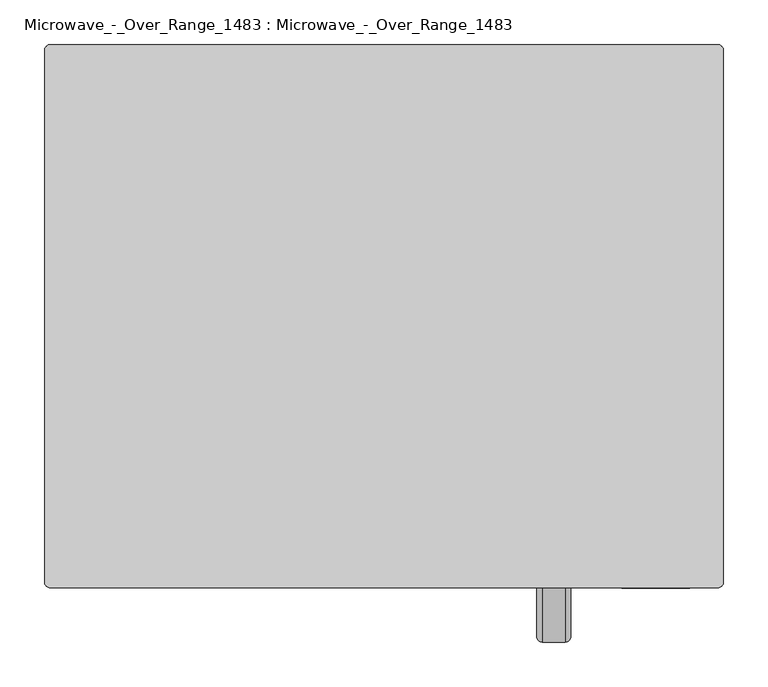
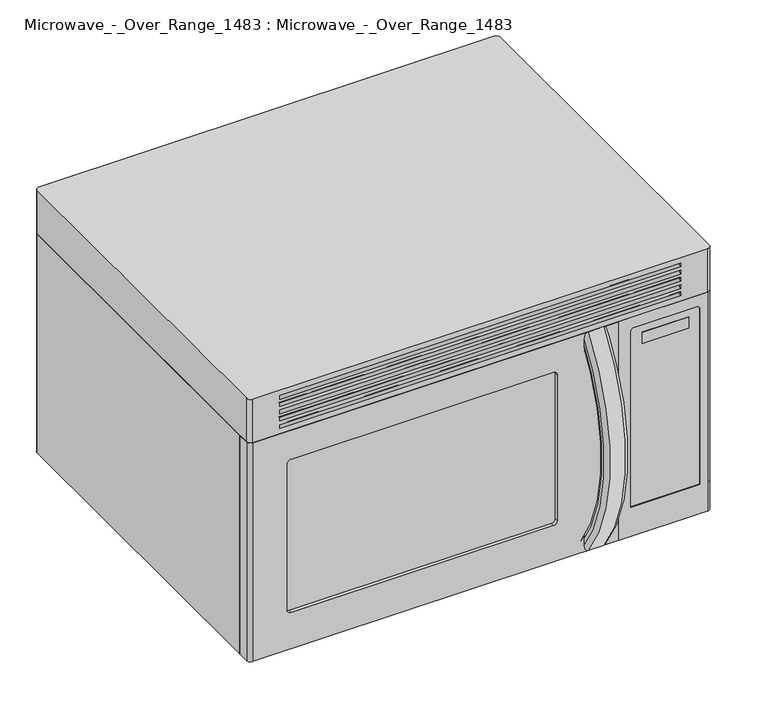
"""IFC4 building model written with IfcOpenShell, lengths in millimetres: proxy geometry, Microwave_-_Over_Range_1483 : Microwave_-_Over_Range_1483."""

from ifc_helpers import new_model, si_unit, point, frame, origin, place, context, project, spatial, polyline, circle_curve, ellipse_curve, trimmed, outline, extrude, source, transform, mapped, element, save
from ifc_brep_helpers import plane_surface, cylinder_surface, revolved_surface, advanced_brep


def microwave_over_range_1483_microwave_over_range_1483_791a16b8(model_context):
    return source(origin(), model_context, "Body", "SolidModel", [
        extrude(outline(polyline([(52.3788287, -76.2226698), (268.2788287, -76.2226698), (268.2788287, -368.3226698), (52.3788287, -368.3226698), (52.3788287, -76.2226698)])), frame((0.0, 0.0, -1.5875), z_axis=(0.0, 0.0, 1.0), x_axis=(1.0, 0.0, 0.0)), (0.0, 0.0, 1.0), 1.5875),
        extrude(outline(polyline([(46.0288287, -69.8726698), (274.6288287, -69.8726698), (274.6288287, -374.6726698), (46.0288287, -374.6726698), (46.0288287, -69.8726698)]), holes=[polyline([(52.3788287, -76.2226698), (52.3788287, -368.3226698), (268.2788287, -368.3226698), (268.2788287, -76.2226698), (52.3788287, -76.2226698)])]), frame((0.0, 0.0, -3.175), z_axis=(0.0, 0.0, 1.0), x_axis=(1.0, 0.0, 0.0)), (0.0, 0.0, 1.0), 3.175),
        extrude(outline(polyline([(-112.7211713, -76.2226698), (-112.7211713, -368.3226698), (-328.6211713, -368.3226698), (-328.6211713, -76.2226698), (-112.7211713, -76.2226698)])), frame((0.0, 0.0, -1.5875), z_axis=(0.0, 0.0, 1.0), x_axis=(1.0, 0.0, 0.0)), (0.0, 0.0, 1.0), 1.5875),
        extrude(outline(polyline([(-106.3711713, -69.8726698), (-106.3711713, -374.6726698), (-334.9711713, -374.6726698), (-334.9711713, -69.8726698), (-106.3711713, -69.8726698)]), holes=[polyline([(-112.7211713, -76.2226698), (-328.6211713, -76.2226698), (-328.6211713, -368.3226698), (-112.7211713, -368.3226698), (-112.7211713, -76.2226698)])]), frame((0.0, 0.0, -3.175), z_axis=(0.0, 0.0, 1.0), x_axis=(1.0, 0.0, 0.0)), (0.0, 0.0, 1.0), 3.175),
        advanced_brep(
        [(173.0288287, -511.7095285, 369.7360581), (147.6288287, -511.7095285, 369.7360581), (141.2788287, -516.8305756, 373.4907054), (141.2788287, -521.9516227, 377.2453527), (147.6288287, -527.0726698, 381.0), (173.0288287, -527.0726698, 381.0), (179.3788287, -521.9516227, 377.2453527), (179.3788287, -516.8305756, 373.4907054), (173.0288287, -511.7095285, 11.2639419), (179.3788287, -516.8305756, 7.5092946), (179.3788287, -521.9516227, 3.7546473), (173.0288287, -527.0726698, 0.0), (147.6288287, -527.0726698, 0.0), (141.2788287, -521.9516227, 3.7546473), (141.2788287, -516.8305756, 7.5092946), (147.6288287, -511.7095285, 11.2639419)],
        [
            (0, 1),
            (1, 2, circle_curve(frame((147.6288287, -516.8305756, 373.4907054), z_axis=(0.0, 0.5912830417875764, 0.806464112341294), x_axis=(-1.0, 0.0, 0.0)), 6.35)),
            (2, 3),
            (3, 4, circle_curve(frame((147.6288287, -521.9516227, 377.2453527), z_axis=(0.0, 0.5912830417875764, 0.806464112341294), x_axis=(-1.0, 0.0, 0.0)), 6.35)),
            (4, 5),
            (5, 6, circle_curve(frame((173.0288287, -521.9516227, 377.2453527), z_axis=(0.0, 0.5912830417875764, 0.806464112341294), x_axis=(-1.0, 0.0, 0.0)), 6.35)),
            (6, 7),
            (7, 0, circle_curve(frame((173.0288287, -516.8305756, 373.4907054), z_axis=(0.0, 0.5912830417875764, 0.806464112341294), x_axis=(-1.0, 0.0, 0.0)), 6.35)),
            (8, 9, circle_curve(frame((173.0288287, -516.8305756, 7.5092946), z_axis=(0.0, 0.5912830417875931, -0.8064641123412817), x_axis=(-1.0, 0.0, 0.0)), 6.35)),
            (9, 10),
            (10, 11, circle_curve(frame((173.0288287, -521.9516227, 3.7546473), z_axis=(0.0, 0.5912830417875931, -0.8064641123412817), x_axis=(-1.0, 0.0, 0.0)), 6.35)),
            (11, 12),
            (12, 13, circle_curve(frame((147.6288287, -521.9516227, 3.7546473), z_axis=(0.0, 0.5912830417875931, -0.8064641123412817), x_axis=(-1.0, 0.0, 0.0)), 6.35)),
            (13, 14),
            (14, 15, circle_curve(frame((147.6288287, -516.8305756, 7.5092946), z_axis=(0.0, 0.5912830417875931, -0.8064641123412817), x_axis=(-1.0, 0.0, 0.0)), 6.35)),
            (15, 8),
            (15, 1, circle_curve(frame((147.6288287, -267.2454762, 190.5), z_axis=(-1.0, 0.0, 0.0), x_axis=(0.0, -0.8064641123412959, 0.5912830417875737)), 303.1307266)),
            (0, 8, circle_curve(frame((173.0288287, -267.2454762, 190.5), z_axis=(1.0, 0.0, 0.0), x_axis=(0.0, -0.8064641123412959, 0.5912830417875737)), 303.1307266)),
            (14, 2, circle_curve(frame((141.2788287, -267.2454762, 190.5), z_axis=(-1.0, 0.0, 0.0), x_axis=(0.0, -0.8064641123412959, 0.5912830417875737)), 309.4807266)),
            (13, 3, circle_curve(frame((141.2788287, -267.2454762, 190.5), z_axis=(-1.0, 0.0, 0.0), x_axis=(0.0, -0.8064641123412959, 0.5912830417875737)), 315.8307266)),
            (12, 4, circle_curve(frame((147.6288287, -267.2454762, 190.5), z_axis=(-1.0, 0.0, 0.0), x_axis=(0.0, -0.8064641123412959, 0.5912830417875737)), 322.1807266)),
            (11, 5, circle_curve(frame((173.0288287, -267.2454762, 190.5), z_axis=(-1.0, 0.0, 0.0), x_axis=(0.0, -0.8064641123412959, 0.5912830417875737)), 322.1807266)),
            (10, 6, circle_curve(frame((179.3788287, -267.2454762, 190.5), z_axis=(-1.0, 0.0, 0.0), x_axis=(0.0, -0.8064641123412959, 0.5912830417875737)), 315.8307266)),
            (9, 7, circle_curve(frame((179.3788287, -267.2454762, 190.5), z_axis=(-1.0, 0.0, 0.0), x_axis=(0.0, -0.8064641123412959, 0.5912830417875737)), 309.4807266)),
        ],
        [
            plane_surface(frame((160.3288287, -527.0726698, 381.0), z_axis=(0.0, 0.5912830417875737, 0.8064641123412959), x_axis=(-1.0, 0.0, 0.0))),
            plane_surface(frame((160.3288287, -527.0726698, 0.0), z_axis=(0.0, 0.5912830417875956, -0.8064641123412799), x_axis=(-1.0, 0.0, 0.0))),
            revolved_surface(polyline([(173.0288287, -511.709528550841, 369.73605808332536), (147.6288287, -511.709528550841, 369.73605808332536)]), (160.3288287, -267.2454762, 190.5), (1.0, 0.0, 0.0)),
            revolved_surface(trimmed(ellipse_curve(frame((147.6288287, -516.8305756, 373.4907054), z_axis=(0.0, 0.5912830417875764, 0.806464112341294), x_axis=(-1.0, 0.0, 0.0)), 6.35, 6.35), [point((147.6288287, -511.7095285, 369.7360581))], [point((141.2788287, -516.8305756, 373.4907054))], True, "CARTESIAN"), (160.3288287, -267.2454762, 190.5), (1.0, 0.0, 0.0)),
            plane_surface(frame((141.2788287, -267.2454762, 190.5), z_axis=(-1.0, 0.0, 0.0), x_axis=(0.0, -0.8064641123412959, 0.5912830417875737))),
            revolved_surface(trimmed(ellipse_curve(frame((147.6288287, -521.9516227, 377.2453527), z_axis=(0.0, 0.5912830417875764, 0.806464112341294), x_axis=(-1.0, 0.0, 0.0)), 6.35, 6.35), [point((141.2788287, -521.9516227, 377.2453527))], [point((147.6288287, -527.0726698, 381.0))], True, "CARTESIAN"), (160.3288287, -267.2454762, 190.5), (1.0, 0.0, 0.0)),
            cylinder_surface(frame((160.3288287, -267.2454762, 190.5), z_axis=(1.0, 0.0, 0.0), x_axis=(0.0, -0.8064641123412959, 0.5912830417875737)), 322.1807266),
            revolved_surface(trimmed(ellipse_curve(frame((173.0288287, -521.9516227, 377.2453527), z_axis=(0.0, 0.5912830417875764, 0.806464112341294), x_axis=(-1.0, 0.0, 0.0)), 6.35, 6.35), [point((173.0288287, -527.0726698, 381.0))], [point((179.3788287, -521.9516227, 377.2453527))], True, "CARTESIAN"), (160.3288287, -267.2454762, 190.5), (1.0, 0.0, 0.0)),
            plane_surface(frame((179.3788287, -267.2454762, 190.5), z_axis=(1.0, 0.0, 0.0), x_axis=(0.0, -0.8064641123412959, 0.5912830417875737))),
            revolved_surface(trimmed(ellipse_curve(frame((173.0288287, -516.8305756, 373.4907054), z_axis=(0.0, 0.5912830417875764, 0.806464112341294), x_axis=(-1.0, 0.0, 0.0)), 6.35, 6.35), [point((179.3788287, -516.8305756, 373.4907054))], [point((173.0288287, -511.7095285, 369.7360581))], True, "CARTESIAN"), (160.3288287, -267.2454762, 190.5), (1.0, 0.0, 0.0)),
        ],
        [
            (0, [[1, 2, 3, 4, 5, 6, 7, 8]]),
            (1, [[9, 10, 11, 12, 13, 14, 15, 16]]),
            (2, [[17, -1, 18, -16]]),
            (3, [[19, -2, -17, -15]]),
            (4, [[20, -3, -19, -14]]),
            (5, [[21, -4, -20, -13]]),
            (6, [[22, -5, -21, -12]]),
            (7, [[23, -6, -22, -11]]),
            (8, [[24, -7, -23, -10]]),
            (9, [[-18, -8, -24, -9]]),
        ],
    ),
        extrude(outline(polyline([(109.5288287, -520.7226698), (-360.3711713, -520.7226698), (-360.3711713, -517.5476698), (109.5288287, -517.5476698), (109.5288287, -520.7226698)])), frame((0.0, 0.0, 50.8), z_axis=(0.0, 0.0, 1.0), x_axis=(1.0, 0.0, 0.0)), (0.0, 0.0, 1.0), 292.1),
        advanced_brep(
        [(196.8413287, -503.2601698, 381.0), (-411.1711713, -503.2601698, 381.0), (-411.1711713, -520.7226698, 381.0), (-404.8211713, -527.0726698, 381.0), (196.8413287, -527.0726698, 381.0), (196.8413287, -503.2601698, 0.0), (196.8413287, -527.0726698, 0.0), (-404.8211713, -527.0726698, 0.0), (-411.1711713, -520.7226698, 0.0), (-411.1711713, -503.2601698, 0.0), (96.8288287, -503.2601698, 69.85), (96.8288287, -503.2601698, 323.85), (90.4788287, -503.2601698, 330.2), (-341.3211713, -503.2601698, 330.2), (-347.6711713, -503.2601698, 323.85), (-347.6711713, -503.2601698, 69.85), (-341.3211713, -503.2601698, 63.5), (90.4788287, -503.2601698, 63.5), (96.8288287, -527.0726698, 323.85), (96.8288287, -527.0726698, 69.85), (90.4788287, -527.0726698, 63.5), (-341.3211713, -527.0726698, 63.5), (-347.6711713, -527.0726698, 69.85), (-347.6711713, -527.0726698, 323.85), (-341.3211713, -527.0726698, 330.2), (90.4788287, -527.0726698, 330.2)],
        [
            (0, 1),
            (1, 2),
            (2, 3, circle_curve(frame((-404.8211713, -520.7226698, 381.0), z_axis=(0.0, 0.0, 1.0), x_axis=(1.0, 0.0, 0.0)), 6.35)),
            (3, 4),
            (4, 0),
            (5, 6),
            (6, 7),
            (7, 8, circle_curve(frame((-404.8211713, -520.7226698, 0.0), z_axis=(0.0, 0.0, -1.0), x_axis=(1.0, 0.0, 0.0)), 6.35)),
            (8, 9),
            (9, 5),
            (0, 5),
            (9, 1),
            (10, 11),
            (11, 12, circle_curve(frame((90.4788287, -503.2601698, 323.85), z_axis=(0.0, -1.0, 0.0), x_axis=(0.0, 0.0, 1.0)), 6.35)),
            (12, 13),
            (13, 14, circle_curve(frame((-341.3211713, -503.2601698, 323.85), z_axis=(0.0, -1.0, 0.0), x_axis=(0.0, 0.0, 1.0)), 6.35)),
            (14, 15),
            (15, 16, circle_curve(frame((-341.3211713, -503.2601698, 69.85), z_axis=(0.0, -1.0, 0.0), x_axis=(0.0, 0.0, 1.0)), 6.35)),
            (16, 17),
            (17, 10, circle_curve(frame((90.4788287, -503.2601698, 69.85), z_axis=(0.0, -1.0, 0.0), x_axis=(0.0, 0.0, 1.0)), 6.35)),
            (8, 2),
            (7, 3),
            (6, 4),
            (18, 19),
            (19, 20, circle_curve(frame((90.4788287, -527.0726698, 69.85), z_axis=(0.0, 1.0, 0.0), x_axis=(0.0, 0.0, 1.0)), 6.35)),
            (20, 21),
            (21, 22, circle_curve(frame((-341.3211713, -527.0726698, 69.85), z_axis=(0.0, 1.0, 0.0), x_axis=(0.0, 0.0, 1.0)), 6.35)),
            (22, 23),
            (23, 24, circle_curve(frame((-341.3211713, -527.0726698, 323.85), z_axis=(0.0, 1.0, 0.0), x_axis=(0.0, 0.0, 1.0)), 6.35)),
            (24, 25),
            (25, 18, circle_curve(frame((90.4788287, -527.0726698, 323.85), z_axis=(0.0, 1.0, 0.0), x_axis=(0.0, 0.0, 1.0)), 6.35)),
            (11, 18),
            (25, 12),
            (10, 19),
            (17, 20),
            (16, 21),
            (15, 22),
            (14, 23),
            (13, 24),
        ],
        [
            plane_surface(frame((-411.1711713, -503.2601698, 381.0), z_axis=(0.0, 0.0, 1.0), x_axis=(-1.0, 0.0, 0.0))),
            plane_surface(frame((-411.1711713, -503.2601698, 0.0), z_axis=(0.0, 0.0, -1.0), x_axis=(1.0, 0.0, 0.0))),
            plane_surface(frame((196.8413287, -503.2601698, 381.0), z_axis=(0.0, 1.0, 0.0), x_axis=(0.0, 0.0, -1.0))),
            plane_surface(frame((-411.1711713, -503.2601698, 381.0), z_axis=(-1.0, 0.0, 0.0), x_axis=(0.0, 0.0, -1.0))),
            cylinder_surface(frame((-404.8211713, -520.7226698, 0.0), z_axis=(0.0, 0.0, 1.0), x_axis=(1.0, 0.0, 0.0)), 6.35),
            plane_surface(frame((-404.8211713, -527.0726698, 381.0), z_axis=(0.0, -1.0, 0.0), x_axis=(0.0, 0.0, -1.0))),
            plane_surface(frame((196.8413287, -527.0726698, 381.0), z_axis=(1.0, 0.0, 0.0), x_axis=(0.0, 0.0, -1.0))),
            revolved_surface(polyline([(90.4788287, -503.2601698, 330.20000000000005), (90.4788287, -527.0726698, 330.20000000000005)]), (90.4788287, -527.0726698, 323.85), (0.0, 1.0, 0.0)),
            plane_surface(frame((96.8288287, -476.2726698, 323.85), z_axis=(-1.0, 0.0, 0.0), x_axis=(0.0, -1.0, 0.0))),
            revolved_surface(polyline([(90.4788287, -503.2601698, 76.19999999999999), (90.4788287, -527.0726698, 76.19999999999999)]), (90.4788287, -527.0726698, 69.85), (0.0, 1.0, 0.0)),
            plane_surface(frame((90.4788287, -476.2726698, 63.5), z_axis=(0.0, 0.0, 1.0), x_axis=(0.0, -1.0, 0.0))),
            revolved_surface(polyline([(-341.3211713, -503.2601698, 76.19999999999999), (-341.3211713, -527.0726698, 76.19999999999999)]), (-341.3211713, -527.0726698, 69.85), (0.0, 1.0, 0.0)),
            plane_surface(frame((-347.6711713, -476.2726698, 69.85), z_axis=(1.0, 0.0, 0.0), x_axis=(0.0, -1.0, 0.0))),
            revolved_surface(polyline([(-341.3211713, -503.2601698, 330.20000000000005), (-341.3211713, -527.0726698, 330.20000000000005)]), (-341.3211713, -527.0726698, 323.85), (0.0, 1.0, 0.0)),
            plane_surface(frame((-341.3211713, -476.2726698, 330.2), z_axis=(0.0, 0.0, -1.0), x_axis=(0.0, -1.0, 0.0))),
        ],
        [
            (0, [[1, 2, 3, 4, 5]]),
            (1, [[6, 7, 8, 9, 10]]),
            (2, [[-1, 11, -10, 12], [13, 14, 15, 16, 17, 18, 19, 20]]),
            (3, [[-2, -12, -9, 21]]),
            (4, [[-3, -21, -8, 22]]),
            (5, [[-4, -22, -7, 23], [24, 25, 26, 27, 28, 29, 30, 31]]),
            (6, [[-5, -23, -6, -11]]),
            (7, [[32, -31, 33, -14]]),
            (8, [[-32, -13, 34, -24]]),
            (9, [[35, -25, -34, -20]]),
            (10, [[-35, -19, 36, -26]]),
            (11, [[37, -27, -36, -18]]),
            (12, [[-37, -17, 38, -28]]),
            (13, [[39, -29, -38, -16]]),
            (14, [[-39, -15, -33, -30]]),
        ],
    ),
        extrude(outline(polyline([(312.7288287, -527.8664198), (236.5288287, -527.8664198), (236.5288287, -527.0726698), (312.7288287, -527.0726698), (312.7288287, -527.8664198)])), frame((0.0, 0.0, 330.213632), z_axis=(0.0, 0.0, 1.0), x_axis=(1.0, 0.0, 0.0)), (0.0, 0.0, 1.0), 19.05),
        advanced_brep(
        [(-411.1711713, 76.1773302, 381.0), (-411.1711713, -501.6726698, 381.0), (-385.7711713, -501.6726698, 381.0), (-385.7711713, 57.1273302, 381.0), (198.4288287, 57.1273302, 381.0), (198.4288287, -527.0726698, 381.0), (344.4788287, -527.0726698, 381.0), (350.8288287, -520.7226698, 381.0), (350.8288287, 76.1773302, 381.0), (344.4788287, 82.5273302, 381.0), (-404.8211713, 82.5273302, 381.0), (-411.1711713, 76.1773302, 50.8), (-411.1711713, 76.1773302, 0.0), (-411.1711713, -501.6726698, 0.0), (198.4288287, -501.6726698, 0.0), (198.4288287, -501.6726698, 50.8), (-385.7711713, -501.6726698, 50.8), (-385.7711713, 57.1273302, 50.8), (198.4288287, 57.1273302, 50.8), (198.4288287, -527.0726698, 0.0), (344.4788287, -527.0726698, 0.0), (344.4788287, -527.0726698, 50.8), (331.7788287, -527.0726698, 355.613632), (331.7788287, -527.0726698, 50.8), (217.4788287, -527.0726698, 50.8), (217.4788287, -527.0726698, 355.613632), (223.8288287, -527.0726698, 361.963632), (325.4288287, -527.0726698, 361.963632), (350.8288287, -520.7226698, 50.8), (350.8288287, -520.7226698, 0.0), (350.8288287, 76.1773302, 0.0), (350.8288287, 76.1773302, 50.8), (344.4788287, 82.5273302, 50.8), (344.4788287, 82.5273302, 0.0), (-404.8211713, 82.5273302, 0.0), (-404.8211713, 82.5273302, 50.8), (331.7788287, -525.4851698, 355.613632), (325.4288287, -525.4851698, 361.963632), (223.8288287, -525.4851698, 361.963632), (217.4788287, -525.4851698, 355.613632), (217.4788287, -525.4851698, 50.8), (331.7788287, -525.4851698, 50.8)],
        [
            (0, 1),
            (1, 2),
            (2, 3),
            (3, 4),
            (4, 5),
            (5, 6),
            (6, 7, circle_curve(frame((344.4788287, -520.7226698, 381.0), z_axis=(0.0, 0.0, 1.0), x_axis=(1.0, 0.0, 0.0)), 6.35)),
            (7, 8),
            (8, 9, circle_curve(frame((344.4788287, 76.1773302, 381.0), z_axis=(0.0, 0.0, 1.0), x_axis=(1.0, 0.0, 0.0)), 6.35)),
            (9, 10),
            (10, 0, circle_curve(frame((-404.8211713, 76.1773302, 381.0), z_axis=(0.0, 0.0, 1.0), x_axis=(1.0, 0.0, 0.0)), 6.35)),
            (0, 11),
            (11, 12),
            (12, 13),
            (13, 1),
            (13, 14),
            (14, 15),
            (15, 16),
            (16, 2),
            (16, 17),
            (17, 3),
            (17, 18),
            (18, 4),
            (18, 15),
            (14, 19),
            (19, 5),
            (19, 20),
            (20, 21),
            (21, 6),
            (22, 23),
            (23, 24),
            (24, 25),
            (25, 26, circle_curve(frame((223.8288287, -527.0726698, 355.613632), z_axis=(0.0, 1.0, 0.0), x_axis=(0.0, 0.0, 1.0)), 6.35)),
            (26, 27),
            (27, 22, circle_curve(frame((325.4288287, -527.0726698, 355.613632), z_axis=(0.0, 1.0, 0.0), x_axis=(0.0, 0.0, 1.0)), 6.35)),
            (21, 28, circle_curve(frame((344.4788287, -520.7226698, 50.8), z_axis=(0.0, 0.0, 1.0), x_axis=(1.0, 0.0, 0.0)), 6.35)),
            (28, 7),
            (28, 29),
            (29, 30),
            (30, 31),
            (31, 8),
            (31, 32, circle_curve(frame((344.4788287, 76.1773302, 50.8), z_axis=(0.0, 0.0, 1.0), x_axis=(1.0, 0.0, 0.0)), 6.35)),
            (32, 9),
            (32, 33),
            (33, 34),
            (34, 35),
            (35, 10),
            (35, 11, circle_curve(frame((-404.8211713, 76.1773302, 50.8), z_axis=(0.0, 0.0, 1.0), x_axis=(1.0, 0.0, 0.0)), 6.35)),
            (36, 37, circle_curve(frame((325.4288287, -525.4851698, 355.613632), z_axis=(0.0, -1.0, 0.0), x_axis=(0.0, 0.0, 1.0)), 6.35)),
            (37, 38),
            (38, 39, circle_curve(frame((223.8288287, -525.4851698, 355.613632), z_axis=(0.0, -1.0, 0.0), x_axis=(0.0, 0.0, 1.0)), 6.35)),
            (39, 40),
            (40, 41),
            (41, 36),
            (39, 25),
            (24, 40),
            (38, 26),
            (37, 27),
            (36, 22),
            (41, 23),
            (12, 34, circle_curve(frame((-404.8211713, 76.1773302, 0.0), z_axis=(0.0, 0.0, -1.0), x_axis=(1.0, 0.0, 0.0)), 6.35)),
            (33, 30, circle_curve(frame((344.4788287, 76.1773302, 0.0), z_axis=(0.0, 0.0, -1.0), x_axis=(1.0, 0.0, 0.0)), 6.35)),
            (29, 20, circle_curve(frame((344.4788287, -520.7226698, 0.0), z_axis=(0.0, 0.0, -1.0), x_axis=(1.0, 0.0, 0.0)), 6.35)),
        ],
        [
            plane_surface(frame((-411.1711713, -501.6726698, 381.0), z_axis=(0.0, 0.0, 1.0), x_axis=(0.0, -1.0, 0.0))),
            plane_surface(frame((-411.1711713, 76.1773302, 381.0), z_axis=(-1.0, 0.0, 0.0), x_axis=(0.0, 0.0, -1.0))),
            plane_surface(frame((-411.1711713, -501.6726698, 381.0), z_axis=(0.0, -1.0, 0.0), x_axis=(0.0, 0.0, -1.0))),
            plane_surface(frame((-385.7711713, -501.6726698, 381.0), z_axis=(1.0, 0.0, 0.0), x_axis=(0.0, 0.0, -1.0))),
            plane_surface(frame((-385.7711713, 57.1273302, 381.0), z_axis=(0.0, -1.0, 0.0), x_axis=(0.0, 0.0, -1.0))),
            plane_surface(frame((198.4288287, 57.1273302, 381.0), z_axis=(-1.0, 0.0, 0.0), x_axis=(0.0, 0.0, -1.0))),
            plane_surface(frame((198.4288287, -527.0726698, 381.0), z_axis=(0.0, -1.0, 0.0), x_axis=(0.0, 0.0, -1.0))),
            cylinder_surface(frame((344.4788287, -520.7226698, 50.8), z_axis=(0.0, 0.0, 1.0), x_axis=(1.0, 0.0, 0.0)), 6.35),
            plane_surface(frame((350.8288287, -520.7226698, 381.0), z_axis=(1.0, 0.0, 0.0), x_axis=(0.0, 0.0, -1.0))),
            cylinder_surface(frame((344.4788287, 76.1773302, 50.8), z_axis=(0.0, 0.0, 1.0), x_axis=(1.0, 0.0, 0.0)), 6.35),
            plane_surface(frame((344.4788287, 82.5273302, 381.0), z_axis=(0.0, 1.0, 0.0), x_axis=(0.0, 0.0, -1.0))),
            cylinder_surface(frame((-404.8211713, 76.1773302, 50.8), z_axis=(0.0, 0.0, 1.0), x_axis=(1.0, 0.0, 0.0)), 6.35),
            plane_surface(frame((223.8288287, -525.4851698, 19.063632), z_axis=(0.0, -1.0, 0.0), x_axis=(-1.0, 0.0, 0.0))),
            plane_surface(frame((217.4788287, -525.4851698, 25.413632), z_axis=(1.0, 0.0, 0.0), x_axis=(0.0, -1.0, 0.0))),
            revolved_surface(polyline([(223.8288287, -525.4851698, 361.963632), (223.8288287, -527.0726698, 361.963632)]), (223.8288287, -527.0726698, 355.613632), (0.0, 1.0, 0.0)),
            plane_surface(frame((223.8288287, -525.4851698, 361.963632), z_axis=(0.0, 0.0, -1.0), x_axis=(0.0, -1.0, 0.0))),
            revolved_surface(polyline([(325.4288287, -525.4851698, 361.963632), (325.4288287, -527.0726698, 361.963632)]), (325.4288287, -527.0726698, 355.613632), (0.0, 1.0, 0.0)),
            plane_surface(frame((331.7788287, -525.4851698, 355.613632), z_axis=(-1.0, 0.0, 0.0), x_axis=(0.0, -1.0, 0.0))),
            plane_surface(frame((-411.1711713, -501.6726698, 50.8), z_axis=(0.0, 0.0, 1.0), x_axis=(0.0, -1.0, 0.0))),
            plane_surface(frame((-411.1711713, -501.6726698, 0.0), z_axis=(0.0, 0.0, -1.0), x_axis=(0.0, 1.0, 0.0))),
            cylinder_surface(frame((344.4788287, -520.7226698, 0.0), z_axis=(0.0, 0.0, 1.0), x_axis=(1.0, 0.0, 0.0)), 6.35),
            cylinder_surface(frame((344.4788287, 76.1773302, 0.0), z_axis=(0.0, 0.0, 1.0), x_axis=(1.0, 0.0, 0.0)), 6.35),
            cylinder_surface(frame((-404.8211713, 76.1773302, 0.0), z_axis=(0.0, 0.0, 1.0), x_axis=(1.0, 0.0, 0.0)), 6.35),
        ],
        [
            (0, [[1, 2, 3, 4, 5, 6, 7, 8, 9, 10, 11]]),
            (1, [[-1, 12, 13, 14, 15]]),
            (2, [[-2, -15, 16, 17, 18, 19]]),
            (3, [[-3, -19, 20, 21]]),
            (4, [[-4, -21, 22, 23]]),
            (5, [[-5, -23, 24, -17, 25, 26]]),
            (6, [[-6, -26, 27, 28, 29], [30, 31, 32, 33, 34, 35]]),
            (7, [[-7, -29, 36, 37]]),
            (8, [[-8, -37, 38, 39, 40, 41]]),
            (9, [[-9, -41, 42, 43]]),
            (10, [[-10, -43, 44, 45, 46, 47]]),
            (11, [[-11, -47, 48, -12]]),
            (12, [[49, 50, 51, 52, 53, 54]]),
            (13, [[55, -32, 56, -52]]),
            (14, [[-51, 57, -33, -55]]),
            (15, [[-50, 58, -34, -57]]),
            (16, [[-49, 59, -35, -58]]),
            (17, [[-59, -54, 60, -30]]),
            (18, [[-18, -24, -22, -20]]),
            (18, [[-31, -60, -53, -56]]),
            (19, [[61, -45, 62, -39, 63, -27, -25, -16, -14]]),
            (20, [[-63, -38, -36, -28]]),
            (21, [[-62, -44, -42, -40]]),
            (22, [[-61, -13, -48, -46]]),
        ],
    ),
        advanced_brep(
        [(344.4788287, 82.5273302, 381.0), (350.8288287, 76.1773302, 381.0), (350.8288287, -520.7226698, 381.0), (344.4788287, -527.0726698, 381.0), (-404.8211713, -527.0726698, 381.0), (-411.1711713, -520.7226698, 381.0), (-411.1711713, 76.1773302, 381.0), (-404.8211713, 82.5273302, 381.0), (344.4788287, 82.5273302, 457.2), (-404.8211713, 82.5273302, 457.2), (-411.1711713, 76.1773302, 457.2), (-411.1711713, -520.7226698, 457.2), (-404.8211713, -527.0726698, 457.2), (344.4788287, -527.0726698, 457.2), (350.8288287, -520.7226698, 457.2), (350.8288287, 76.1773302, 457.2), (-360.3711713, -527.0726698, 441.2959324), (-360.3711713, -527.0726698, 447.7040676), (300.0288287, -527.0726698, 447.7040676), (300.0288287, -527.0726698, 441.2959324), (-360.3711713, -527.0726698, 415.925), (-360.3711713, -527.0726698, 422.275), (300.0288287, -527.0726698, 422.275), (300.0288287, -527.0726698, 415.925), (-360.3711713, -527.0726698, 428.625), (-360.3711713, -527.0726698, 434.975), (300.0288287, -527.0726698, 434.975), (300.0288287, -527.0726698, 428.625), (-360.3711713, -527.0726698, 390.525), (-360.3711713, -527.0726698, 396.875), (300.0288287, -527.0726698, 396.875), (300.0288287, -527.0726698, 390.525), (-360.3711713, -527.0726698, 403.225), (-360.3711713, -527.0726698, 409.575), (300.0288287, -527.0726698, 409.575), (300.0288287, -527.0726698, 403.225)],
        [
            (0, 1, circle_curve(frame((344.4788287, 76.1773302, 381.0), z_axis=(0.0, 0.0, -1.0), x_axis=(0.0, -1.0, 0.0)), 6.35)),
            (1, 2),
            (2, 3, circle_curve(frame((344.4788287, -520.7226698, 381.0), z_axis=(0.0, 0.0, -1.0), x_axis=(0.0, -1.0, 0.0)), 6.35)),
            (3, 4),
            (4, 5, circle_curve(frame((-404.8211713, -520.7226698, 381.0), z_axis=(0.0, 0.0, -1.0), x_axis=(0.0, -1.0, 0.0)), 6.35)),
            (5, 6),
            (6, 7, circle_curve(frame((-404.8211713, 76.1773302, 381.0), z_axis=(0.0, 0.0, -1.0), x_axis=(0.0, -1.0, 0.0)), 6.35)),
            (7, 0),
            (8, 9),
            (9, 10, circle_curve(frame((-404.8211713, 76.1773302, 457.2), z_axis=(0.0, 0.0, 1.0), x_axis=(0.0, -1.0, 0.0)), 6.35)),
            (10, 11),
            (11, 12, circle_curve(frame((-404.8211713, -520.7226698, 457.2), z_axis=(0.0, 0.0, 1.0), x_axis=(0.0, -1.0, 0.0)), 6.35)),
            (12, 13),
            (13, 14, circle_curve(frame((344.4788287, -520.7226698, 457.2), z_axis=(0.0, 0.0, 1.0), x_axis=(0.0, -1.0, 0.0)), 6.35)),
            (14, 15),
            (15, 8, circle_curve(frame((344.4788287, 76.1773302, 457.2), z_axis=(0.0, 0.0, 1.0), x_axis=(0.0, -1.0, 0.0)), 6.35)),
            (0, 8),
            (15, 1),
            (14, 2),
            (13, 3),
            (12, 4),
            (16, 17),
            (17, 18),
            (18, 19),
            (19, 16),
            (20, 21),
            (21, 22),
            (22, 23),
            (23, 20),
            (24, 25),
            (25, 26),
            (26, 27),
            (27, 24),
            (28, 29),
            (29, 30),
            (30, 31),
            (31, 28),
            (32, 33),
            (33, 34),
            (34, 35),
            (35, 32),
            (11, 5),
            (10, 6),
            (9, 7),
            (16, 17, circle_curve(frame((-360.3711713, -527.0726698, 444.5), z_axis=(1.0, 0.0, 0.0), x_axis=(0.0, 0.0, 1.0)), 3.2040676)),
            (18, 19, circle_curve(frame((300.0288287, -527.0726698, 444.5), z_axis=(-1.0, 0.0, 0.0), x_axis=(0.0, 0.0, 1.0)), 3.2040676)),
            (24, 25, circle_curve(frame((-360.3711713, -527.0726698, 431.8), z_axis=(1.0, 0.0, 0.0), x_axis=(0.0, 0.0, 1.0)), 3.175)),
            (28, 29, circle_curve(frame((-360.3711713, -527.0726698, 393.7), z_axis=(1.0, 0.0, 0.0), x_axis=(0.0, 0.0, 1.0)), 3.175)),
            (32, 33, circle_curve(frame((-360.3711713, -527.0726698, 406.4), z_axis=(1.0, 0.0, 0.0), x_axis=(0.0, 0.0, 1.0)), 3.175)),
            (20, 21, circle_curve(frame((-360.3711713, -527.0726698, 419.1), z_axis=(1.0, 0.0, 0.0), x_axis=(0.0, 0.0, 1.0)), 3.175)),
            (22, 23, circle_curve(frame((300.0288287, -527.0726698, 419.1), z_axis=(-1.0, 0.0, 0.0), x_axis=(0.0, 0.0, 1.0)), 3.175)),
            (34, 35, circle_curve(frame((300.0288287, -527.0726698, 406.4), z_axis=(-1.0, 0.0, 0.0), x_axis=(0.0, 0.0, 1.0)), 3.175)),
            (30, 31, circle_curve(frame((300.0288287, -527.0726698, 393.7), z_axis=(-1.0, 0.0, 0.0), x_axis=(0.0, 0.0, 1.0)), 3.175)),
            (26, 27, circle_curve(frame((300.0288287, -527.0726698, 431.8), z_axis=(-1.0, 0.0, 0.0), x_axis=(0.0, 0.0, 1.0)), 3.175)),
        ],
        [
            plane_surface(frame((344.4788287, 69.8273302, 381.0), z_axis=(0.0, 0.0, -1.0), x_axis=(-1.0, 0.0, 0.0))),
            plane_surface(frame((344.4788287, 69.8273302, 457.2), z_axis=(0.0, 0.0, 1.0), x_axis=(1.0, 0.0, 0.0))),
            cylinder_surface(frame((344.4788287, 76.1773302, 457.2), z_axis=(0.0, 0.0, -1.0), x_axis=(0.0, -1.0, 0.0)), 6.35),
            plane_surface(frame((350.8288287, 76.1773302, 381.0), z_axis=(1.0, 0.0, 0.0), x_axis=(0.0, 0.0, 1.0))),
            cylinder_surface(frame((344.4788287, -520.7226698, 457.2), z_axis=(0.0, 0.0, -1.0), x_axis=(0.0, -1.0, 0.0)), 6.35),
            plane_surface(frame((344.4788287, -527.0726698, 381.0), z_axis=(0.0, -1.0, 0.0), x_axis=(0.0, 0.0, 1.0))),
            cylinder_surface(frame((-404.8211713, -520.7226698, 457.2), z_axis=(0.0, 0.0, -1.0), x_axis=(0.0, -1.0, 0.0)), 6.35),
            plane_surface(frame((-411.1711713, -520.7226698, 381.0), z_axis=(-1.0, 0.0, 0.0), x_axis=(0.0, 0.0, 1.0))),
            cylinder_surface(frame((-404.8211713, 76.1773302, 457.2), z_axis=(0.0, 0.0, -1.0), x_axis=(0.0, -1.0, 0.0)), 6.35),
            plane_surface(frame((-404.8211713, 82.5273302, 381.0), z_axis=(0.0, 1.0, 0.0), x_axis=(0.0, 0.0, 1.0))),
            plane_surface(frame((-360.3711713, -527.0726698, 444.5), z_axis=(1.0, 0.0, 0.0), x_axis=(0.0, -1.0, 0.0))),
            plane_surface(frame((300.0288287, -527.0726698, 444.5), z_axis=(-1.0, 0.0, 0.0), x_axis=(0.0, -1.0, 0.0))),
            revolved_surface(polyline([(-360.3711713, -527.0726698, 447.7040676), (300.0288287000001, -527.0726698, 447.7040676)]), (-360.3711713, -527.0726698, 444.5), (-1.0, 0.0, 0.0)),
            plane_surface(frame((-360.3711713, -527.0726698, 431.8), z_axis=(1.0, 0.0, 0.0), x_axis=(0.0, -1.0, 0.0))),
            plane_surface(frame((300.0288287, -527.0726698, 431.8), z_axis=(-1.0, 0.0, 0.0), x_axis=(0.0, -1.0, 0.0))),
            revolved_surface(polyline([(-360.3711713, -527.0726698, 422.27500000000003), (300.0288287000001, -527.0726698, 422.27500000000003)]), (-360.3711713, -527.0726698, 419.1), (-1.0, 0.0, 0.0)),
            revolved_surface(polyline([(-360.3711713, -527.0726698, 409.575), (300.0288287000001, -527.0726698, 409.575)]), (-360.3711713, -527.0726698, 406.4), (-1.0, 0.0, 0.0)),
            revolved_surface(polyline([(-360.3711713, -527.0726698, 396.875), (300.0288287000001, -527.0726698, 396.875)]), (-360.3711713, -527.0726698, 393.7), (-1.0, 0.0, 0.0)),
            revolved_surface(polyline([(-360.3711713, -527.0726698, 434.975), (300.0288287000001, -527.0726698, 434.975)]), (-360.3711713, -527.0726698, 431.8), (-1.0, 0.0, 0.0)),
        ],
        [
            (0, [[1, 2, 3, 4, 5, 6, 7, 8]]),
            (1, [[9, 10, 11, 12, 13, 14, 15, 16]]),
            (2, [[-1, 17, -16, 18]]),
            (3, [[-2, -18, -15, 19]]),
            (4, [[-3, -19, -14, 20]]),
            (5, [[-4, -20, -13, 21], [22, 23, 24, 25], [26, 27, 28, 29], [30, 31, 32, 33], [34, 35, 36, 37], [38, 39, 40, 41]]),
            (6, [[-5, -21, -12, 42]]),
            (7, [[-6, -42, -11, 43]]),
            (8, [[-7, -43, -10, 44]]),
            (9, [[-8, -44, -9, -17]]),
            (10, [[45, -22]]),
            (11, [[46, -24]]),
            (12, [[-45, -25, -46, -23]]),
            (13, [[47, -30]]),
            (13, [[48, -34]]),
            (13, [[49, -38]]),
            (13, [[50, -26]]),
            (14, [[51, -28]]),
            (14, [[52, -40]]),
            (14, [[53, -36]]),
            (14, [[54, -32]]),
            (15, [[-50, -29, -51, -27]]),
            (16, [[-49, -41, -52, -39]]),
            (17, [[-48, -37, -53, -35]]),
            (18, [[-47, -33, -54, -31]]),
        ],
    ),
    ])


if __name__ == "__main__":
    model = new_model("IFC4")
    model_context = context("Model", 3, world=origin())
    ifc_project = project(units=[si_unit("LENGTHUNIT", "METRE", prefix="MILLI")], contexts=[model_context])
    site = spatial("IfcSite", under=ifc_project)
    building = spatial("IfcBuilding", under=site)
    placement = place(None, origin())
    microwave_over_range_1483_microwave_over_range_1483_shape = microwave_over_range_1483_microwave_over_range_1483_791a16b8(model_context)
    element("IfcBuildingElementProxy", 1, Name="Microwave_-_Over_Range_1483 : Microwave_-_Over_Range_1483", ObjectType="Microwave_-_Over_Range_1483 : Microwave_-_Over_Range_1483", at=placement, inside=building, context=model_context, shape_type="MappedRepresentation", body=[
        mapped(microwave_over_range_1483_microwave_over_range_1483_shape, transform((0.0, 0.0, 0.0), x_axis=(1.0, 0.0, 0.0), y_axis=(0.0, 1.0, 0.0), z_axis=(0.0, 0.0, 1.0))),
    ])
    save(model, "model.ifc")
